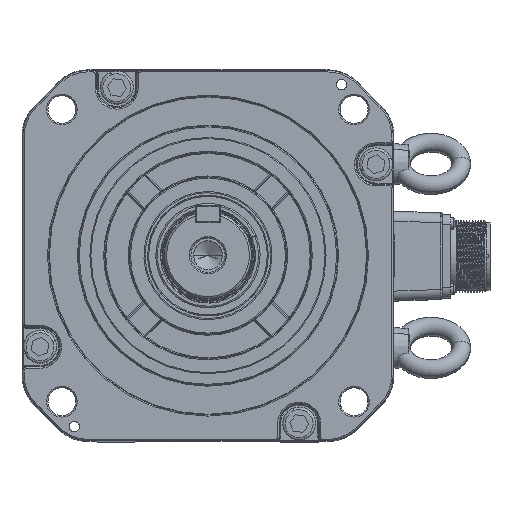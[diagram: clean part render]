
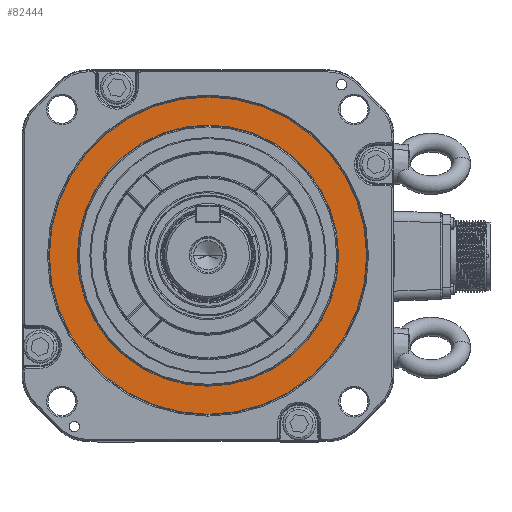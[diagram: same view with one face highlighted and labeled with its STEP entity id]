
A CAD part, top view. The second image highlights one B-rep face of the part: STEP entity #82444.
In plain terms, the highlighted planar face has unit normal (0, 0, 1).
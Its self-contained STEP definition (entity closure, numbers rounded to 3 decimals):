
#835 = EDGE_LOOP ( 'NONE', ( #78110, #40000 ) ) ;
#881 = DIRECTION ( 'NONE',  ( 0., 0., -1. ) ) ;
#2916 = VERTEX_POINT ( 'NONE', #32787 ) ;
#7434 = DIRECTION ( 'NONE',  ( -1., 0., 0. ) ) ;
#10093 = EDGE_CURVE ( 'NONE', #2916, #38188, #60824, .T. ) ;
#12534 = VERTEX_POINT ( 'NONE', #32831 ) ;
#15676 = EDGE_CURVE ( 'NONE', #12534, #70042, #27822, .T. ) ;
#17946 = DIRECTION ( 'NONE',  ( -1., 0., 0. ) ) ;
#19318 = CARTESIAN_POINT ( 'NONE',  ( 0., 0., -3.7 ) ) ;
#20401 = DIRECTION ( 'NONE',  ( -1., 0., 0. ) ) ;
#27822 = CIRCLE ( 'NONE', #85721, 63.207 ) ;
#32787 = CARTESIAN_POINT ( 'NONE',  ( 76.793, 0., -3.7 ) ) ;
#32831 = CARTESIAN_POINT ( 'NONE',  ( 63.207, 0., -3.7 ) ) ;
#35798 = CARTESIAN_POINT ( 'NONE',  ( 0., 0., -3.7 ) ) ;
#37229 = EDGE_CURVE ( 'NONE', #38188, #2916, #60849, .T. ) ;
#38188 = VERTEX_POINT ( 'NONE', #96799 ) ;
#38257 = CARTESIAN_POINT ( 'NONE',  ( 0., 0., -3.7 ) ) ;
#40000 = ORIENTED_EDGE ( 'NONE', *, *, #10093, .T. ) ;
#44611 = DIRECTION ( 'NONE',  ( 0., 0., -1. ) ) ;
#45278 = AXIS2_PLACEMENT_3D ( 'NONE', #56914, #90968, #7434 ) ;
#45897 = CIRCLE ( 'NONE', #56433, 63.207 ) ;
#46711 = EDGE_LOOP ( 'NONE', ( #86447, #75540 ) ) ;
#48690 = DIRECTION ( 'NONE',  ( -1., 0., 0. ) ) ;
#56433 = AXIS2_PLACEMENT_3D ( 'NONE', #35798, #44611, #61110 ) ;
#56914 = CARTESIAN_POINT ( 'NONE',  ( 0., 77., -3.7 ) ) ;
#57448 = FACE_OUTER_BOUND ( 'NONE', #835, .T. ) ;
#60824 = CIRCLE ( 'NONE', #69618, 76.793 ) ;
#60849 = CIRCLE ( 'NONE', #80107, 76.793 ) ;
#60854 = EDGE_CURVE ( 'NONE', #70042, #12534, #45897, .T. ) ;
#61110 = DIRECTION ( 'NONE',  ( -1., 0., 0. ) ) ;
#62159 = DIRECTION ( 'NONE',  ( 0., 0., 1. ) ) ;
#69618 = AXIS2_PLACEMENT_3D ( 'NONE', #19318, #62159, #20401 ) ;
#70042 = VERTEX_POINT ( 'NONE', #72411 ) ;
#72411 = CARTESIAN_POINT ( 'NONE',  ( -63.207, 0., -3.7 ) ) ;
#73969 = FACE_BOUND ( 'NONE', #46711, .T. ) ;
#75540 = ORIENTED_EDGE ( 'NONE', *, *, #15676, .T. ) ;
#76198 = CARTESIAN_POINT ( 'NONE',  ( 0., 0., -3.7 ) ) ;
#78110 = ORIENTED_EDGE ( 'NONE', *, *, #37229, .T. ) ;
#80107 = AXIS2_PLACEMENT_3D ( 'NONE', #38257, #90460, #48690 ) ;
#81655 = PLANE ( 'NONE',  #45278 ) ;
#82444 = ADVANCED_FACE ( 'NONE', ( #57448, #73969 ), #81655, .F. ) ;
#85721 = AXIS2_PLACEMENT_3D ( 'NONE', #76198, #881, #17946 ) ;
#86447 = ORIENTED_EDGE ( 'NONE', *, *, #60854, .T. ) ;
#90460 = DIRECTION ( 'NONE',  ( 0., 0., 1. ) ) ;
#90968 = DIRECTION ( 'NONE',  ( 0., 0., -1. ) ) ;
#96799 = CARTESIAN_POINT ( 'NONE',  ( -76.793, 0., -3.7 ) ) ;
